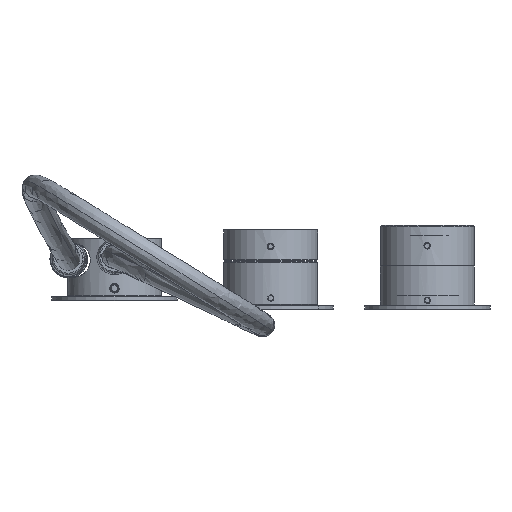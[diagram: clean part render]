
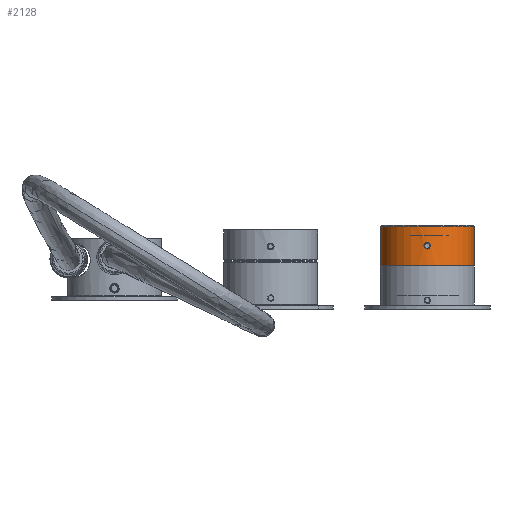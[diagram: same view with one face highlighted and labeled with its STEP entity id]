
A CAD part, front view. The second image highlights one B-rep face of the part: STEP entity #2128.
In plain terms, the highlighted cylindrical face has radius 30 mm (diameter 60 mm), a partial arc.
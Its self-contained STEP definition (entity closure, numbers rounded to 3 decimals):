
#87=CARTESIAN_POINT('',(-39.9,10.034,56.4));
#88=DIRECTION('',(0.,0.,-1.));
#89=DIRECTION('',(1.,0.,0.));
#90=AXIS2_PLACEMENT_3D('',#87,#88,#89);
#92=DIRECTION('',(0.,0.,1.));
#93=VECTOR('',#92,25.);
#94=CARTESIAN_POINT('',(-69.9,10.034,31.4));
#95=LINE('',#94,#93);
#96=CARTESIAN_POINT('',(-37.845,-19.895,43.9));
#97=CARTESIAN_POINT('',(-37.845,-19.895,43.999));
#98=CARTESIAN_POINT('',(-37.859,-19.896,44.195));
#99=CARTESIAN_POINT('',(-37.918,-19.9,44.485));
#100=CARTESIAN_POINT('',(-38.016,-19.907,44.764));
#101=CARTESIAN_POINT('',(-38.148,-19.915,45.023));
#102=CARTESIAN_POINT('',(-38.318,-19.924,45.266));
#103=CARTESIAN_POINT('',(-38.512,-19.934,45.476));
#104=CARTESIAN_POINT('',(-38.735,-19.944,45.659));
#105=CARTESIAN_POINT('',(-38.98,-19.952,45.807));
#106=CARTESIAN_POINT('',(-39.236,-19.959,45.918));
#107=CARTESIAN_POINT('',(-39.511,-19.964,45.993));
#108=CARTESIAN_POINT('',(-39.782,-19.966,46.028));
#109=CARTESIAN_POINT('',(-40.058,-19.966,46.025));
#110=CARTESIAN_POINT('',(-40.329,-19.963,45.985));
#111=CARTESIAN_POINT('',(-40.596,-19.958,45.906));
#112=CARTESIAN_POINT('',(-40.845,-19.951,45.794));
#113=CARTESIAN_POINT('',(-41.082,-19.943,45.646));
#114=CARTESIAN_POINT('',(-41.298,-19.934,45.466));
#115=CARTESIAN_POINT('',(-41.488,-19.924,45.258));
#116=CARTESIAN_POINT('',(-41.653,-19.915,45.02));
#117=CARTESIAN_POINT('',(-41.785,-19.907,44.762));
#118=CARTESIAN_POINT('',(-41.882,-19.9,44.487));
#119=CARTESIAN_POINT('',(-41.941,-19.896,44.195));
#120=CARTESIAN_POINT('',(-41.955,-19.895,43.999));
#121=CARTESIAN_POINT('',(-41.955,-19.895,43.9));
#123=CARTESIAN_POINT('',(-41.955,-19.895,43.9));
#124=CARTESIAN_POINT('',(-41.955,-19.895,43.801));
#125=CARTESIAN_POINT('',(-41.941,-19.896,43.605));
#126=CARTESIAN_POINT('',(-41.882,-19.9,43.315));
#127=CARTESIAN_POINT('',(-41.785,-19.907,43.038));
#128=CARTESIAN_POINT('',(-41.652,-19.915,42.777));
#129=CARTESIAN_POINT('',(-41.483,-19.924,42.535));
#130=CARTESIAN_POINT('',(-41.286,-19.934,42.322));
#131=CARTESIAN_POINT('',(-41.065,-19.944,42.141));
#132=CARTESIAN_POINT('',(-40.818,-19.952,41.992));
#133=CARTESIAN_POINT('',(-40.562,-19.959,41.881));
#134=CARTESIAN_POINT('',(-40.29,-19.964,41.807));
#135=CARTESIAN_POINT('',(-40.016,-19.966,41.772));
#136=CARTESIAN_POINT('',(-39.741,-19.966,41.775));
#137=CARTESIAN_POINT('',(-39.469,-19.963,41.816));
#138=CARTESIAN_POINT('',(-39.203,-19.958,41.894));
#139=CARTESIAN_POINT('',(-38.953,-19.951,42.007));
#140=CARTESIAN_POINT('',(-38.715,-19.943,42.157));
#141=CARTESIAN_POINT('',(-38.501,-19.933,42.335));
#142=CARTESIAN_POINT('',(-38.309,-19.924,42.545));
#143=CARTESIAN_POINT('',(-38.145,-19.915,42.783));
#144=CARTESIAN_POINT('',(-38.014,-19.907,43.04));
#145=CARTESIAN_POINT('',(-37.918,-19.9,43.316));
#146=CARTESIAN_POINT('',(-37.859,-19.896,43.605));
#147=CARTESIAN_POINT('',(-37.845,-19.895,43.801));
#148=CARTESIAN_POINT('',(-37.845,-19.895,43.9));
#154=CARTESIAN_POINT('',(-39.9,10.034,31.4));
#155=DIRECTION('',(0.,0.,1.));
#156=DIRECTION('',(-1.,0.,0.));
#157=AXIS2_PLACEMENT_3D('',#154,#155,#156);
#1344=DIRECTION('',(0.,0.,1.));
#1345=VECTOR('',#1344,25.);
#1346=CARTESIAN_POINT('',(-9.9,10.034,31.4));
#1347=LINE('',#1346,#1345);
#1881=CARTESIAN_POINT('',(-69.9,10.034,31.4));
#1882=VERTEX_POINT('',#1881);
#1883=CARTESIAN_POINT('',(-9.9,10.034,31.4));
#1884=VERTEX_POINT('',#1883);
#1885=CARTESIAN_POINT('',(-9.9,10.034,56.4));
#1886=VERTEX_POINT('',#1885);
#1887=CARTESIAN_POINT('',(-69.9,10.034,56.4));
#1888=VERTEX_POINT('',#1887);
#1889=VERTEX_POINT('',#96);
#1890=VERTEX_POINT('',#121);
#2108=CARTESIAN_POINT('',(-39.9,10.034,56.9));
#2109=DIRECTION('',(0.,0.,1.));
#2110=DIRECTION('',(-1.,0.,0.));
#2111=AXIS2_PLACEMENT_3D('',#2108,#2109,#2110);
#2112=CYLINDRICAL_SURFACE('',#2111,30.);
#2114=ORIENTED_EDGE('',*,*,#2113,.F.);
#2116=ORIENTED_EDGE('',*,*,#2115,.T.);
#2117=ORIENTED_EDGE('',*,*,#2095,.F.);
#2119=ORIENTED_EDGE('',*,*,#2118,.F.);
#2120=EDGE_LOOP('',(#2114,#2116,#2117,#2119));
#2121=FACE_OUTER_BOUND('',#2120,.F.);
#2123=ORIENTED_EDGE('',*,*,#2122,.T.);
#2125=ORIENTED_EDGE('',*,*,#2124,.T.);
#2126=EDGE_LOOP('',(#2123,#2125));
#2127=FACE_BOUND('',#2126,.F.);
#91=CIRCLE('',#90,30.);
#122=B_SPLINE_CURVE_WITH_KNOTS('',3,(#96,#97,#98,#99,#100,#101,#102,#103,#104,
#105,#106,#107,#108,#109,#110,#111,#112,#113,#114,#115,#116,#117,#118,#119,#120,
#121),.UNSPECIFIED.,.F.,.F.,(4,1,1,1,1,1,1,1,1,1,1,1,1,1,1,1,1,1,1,1,1,1,1,4),(
0.,0.043,0.087,0.13,0.174,
0.217,0.261,0.304,0.348,
0.391,0.435,0.478,0.522,
0.565,0.609,0.652,0.696,
0.739,0.783,0.826,0.87,
0.913,0.957,1.),.UNSPECIFIED.);
#149=B_SPLINE_CURVE_WITH_KNOTS('',3,(#123,#124,#125,#126,#127,#128,#129,#130,
#131,#132,#133,#134,#135,#136,#137,#138,#139,#140,#141,#142,#143,#144,#145,#146,
#147,#148),.UNSPECIFIED.,.F.,.F.,(4,1,1,1,1,1,1,1,1,1,1,1,1,1,1,1,1,1,1,1,1,1,1,
4),(0.,0.043,0.087,0.13,
0.174,0.217,0.261,0.304,
0.348,0.391,0.435,0.478,
0.522,0.565,0.609,0.652,
0.696,0.739,0.783,0.826,
0.87,0.913,0.957,1.),.UNSPECIFIED.);
#158=CIRCLE('',#157,30.);
#2095=EDGE_CURVE('',#1886,#1888,#91,.T.);
#2113=EDGE_CURVE('',#1882,#1884,#158,.T.);
#2115=EDGE_CURVE('',#1882,#1888,#95,.T.);
#2118=EDGE_CURVE('',#1884,#1886,#1347,.T.);
#2122=EDGE_CURVE('',#1889,#1890,#122,.T.);
#2124=EDGE_CURVE('',#1890,#1889,#149,.T.);
#2128=ADVANCED_FACE('',(#2121,#2127),#2112,.T.);
